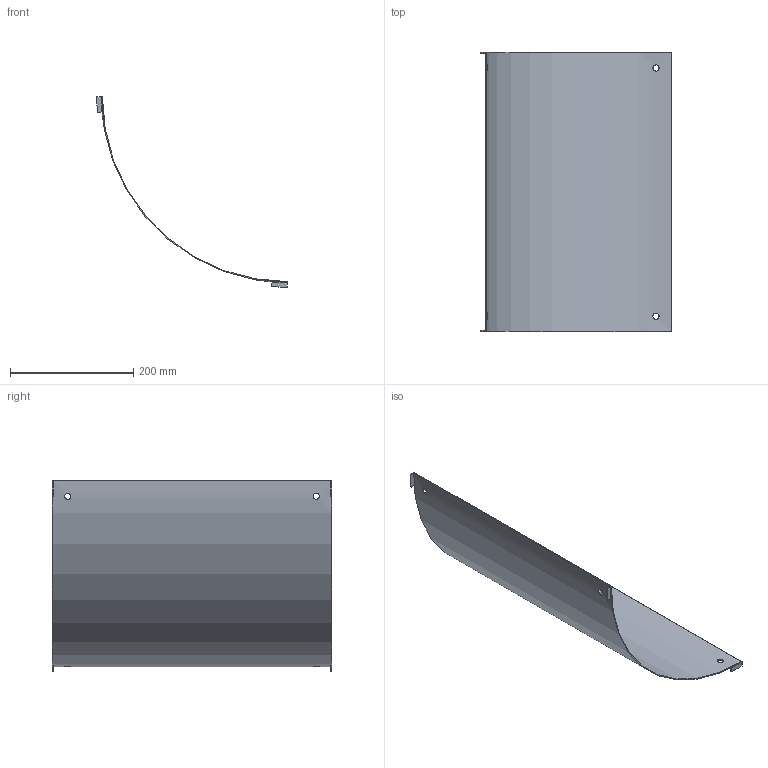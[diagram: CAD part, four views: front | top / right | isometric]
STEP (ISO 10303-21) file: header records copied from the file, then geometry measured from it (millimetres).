
FILE_DESCRIPTION(/* description */ ('','CAx-IF Rec.Pracs.---Representation and Presentation of Product Manufacturing Information (PMI)---4.0---2014-10-13'),/* implementation_level */ '2;1');
FILE_NAME(/* name */ 'Eurostrut_EIRC400-90-300_Cover Inside Riser 90 for Cable Ladder ECL.step',/* time_stamp */ '2026-09-10T11:55:13+02:00',/* author */ (''),/* organization */ (''),/* preprocessor_version */ 'ST-DEVELOPER v20.1',/* originating_system */ 'Autodesk Revit 2027 27.2.0.39',/* authorisation */ '');
FILE_SCHEMA (('AP242_MANAGED_MODEL_BASED_3D_ENGINEERING_MIM_LF { 1 0 10303 442 2 1 4 }'));
Length unit declared in the file: millimetre
Products named in the file (3): TopLevelAssembly; Sweep; Joined Solid Geometry
Assembly tree (2 placements, depth 2):
  TopLevelAssembly
    Sweep
    Joined Solid Geometry
Bounding box: 309 x 453 x 309 mm (x, y, z)
Volume: 321662.4 mm3; surface area: 432238.6 mm2
Topology: 5 solids, 5 shells, 38 faces, 84 edges, 56 vertices
Faces by surface type: plane 20, cylinder 18
Entity records: 1358 total; most frequent: CARTESIAN_POINT 461, DIRECTION 174, ORIENTED_EDGE 168, EDGE_CURVE 84, AXIS2_PLACEMENT_3D 63, VERTEX_POINT 56, LINE 48, VECTOR 48
